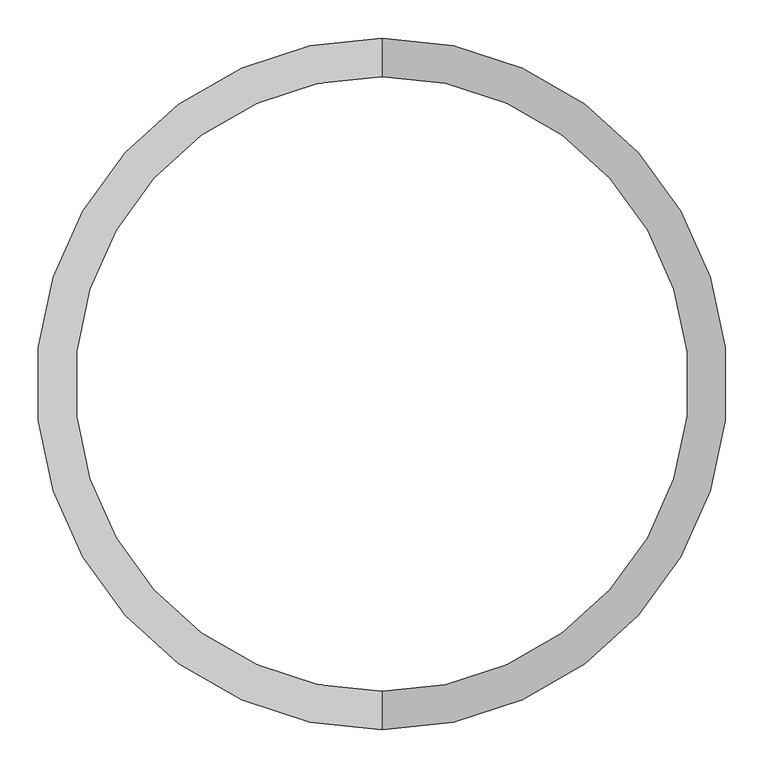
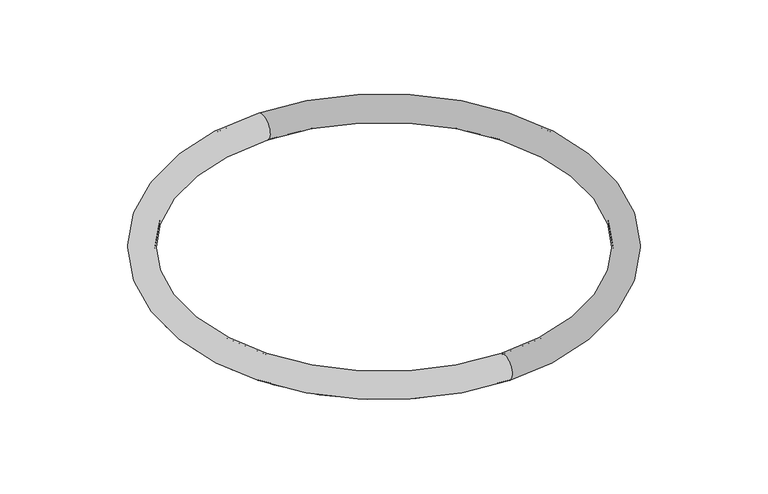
"""IFC4 building model written with IfcOpenShell, lengths in millimetres: light fixture geometry, ARTEMIDE-AoL-StandAlone-Circular_Suspended : StandALone_Suspended_Circular-900mm 6040lm 3000K."""

from ifc_helpers import new_model, si_unit, point, frame, origin, place, context, project, spatial, polyline, circle_curve, ellipse_curve, trimmed, source, transform, mapped, element, save
from ifc_brep_helpers import plane_surface, cylinder_surface, revolved_surface, advanced_brep


def light_fixture_67fe1779(model_context):
    return source(origin(), model_context, "Body", "AdvancedBrep", [
        advanced_brep(
        [(425.3445739, -413.1969999, 502.9151372), (425.3445739, 413.3030001, 502.9151372), (425.3445739, 436.8030001, 502.9151372), (425.3445739, -436.6969999, 502.9151372), (425.3445739, -413.1969999, 507.2410096), (425.3445739, 413.3030001, 507.2410096), (425.3445739, -411.2792459, 505.8106819), (425.3445739, 411.3852461, 505.8106819), (425.3445739, 411.3852461, 507.2410096), (425.3445739, -411.2792459, 507.2410096), (425.3445739, -409.3292459, 507.2258724), (425.3445739, 409.4352461, 507.2258724), (425.3445739, -409.3292459, 509.2258716), (425.3445739, 409.4352461, 509.2258716), (425.3445739, -412.2792459, 510.7258716), (425.3445739, 412.3852461, 510.7258716), (425.3445739, 412.3852461, 509.2258716), (425.3445739, -412.2792459, 509.2258716), (425.3445739, -442.2249794, 510.7258716), (425.3445739, 442.3309795, 510.7258716), (425.3445739, 407.7750206, 510.7258716), (425.3445739, -407.6690205, 510.7258716), (425.3445739, -437.6147539, 509.2258716), (425.3445739, 437.7207541, 509.2258716), (425.3445739, 437.7207541, 510.7258716), (425.3445739, -437.6147539, 510.7258716), (425.3445739, -440.5647539, 507.2258724), (425.3445739, 440.6707541, 507.2258724), (425.3445739, 440.6707541, 509.2258716), (425.3445739, -440.5647539, 509.2258716), (425.3445739, -438.6147539, 505.8106819), (425.3445739, 438.7207541, 505.8106819), (425.3445739, -438.6147539, 507.2410096), (425.3445739, 438.7207541, 507.2410096), (425.3445739, 436.8030001, 507.2410096), (425.3445739, -436.6969999, 507.2410096)],
        [
            (0, 1, circle_curve(frame((425.3445739, 0.0530001, 502.9151372), z_axis=(0.0, 0.0, -1.0), x_axis=(0.0, 1.0, 0.0)), 413.25)),
            (1, 2, circle_curve(frame((425.3445739, 425.0530001, 524.9817976), z_axis=(-1.0, 0.0, 0.0), x_axis=(0.0, -1.0, 0.0)), 25.0)),
            (2, 3, circle_curve(frame((425.3445739, 0.0530001, 502.9151372), z_axis=(0.0, 0.0, 1.0), x_axis=(0.0, 1.0, 0.0)), 436.75)),
            (3, 0, circle_curve(frame((425.3445739, -424.9469999, 524.9817976), z_axis=(-1.0, 0.0, 0.0), x_axis=(0.0, 1.0, 0.0)), 25.0)),
            (4, 5, circle_curve(frame((425.3445739, 0.0530001, 507.2410096), z_axis=(0.0, 0.0, -1.0), x_axis=(0.0, 1.0, 0.0)), 413.25)),
            (5, 1),
            (0, 4),
            (6, 7, circle_curve(frame((425.3445739, 0.0530001, 505.8106819), z_axis=(0.0, 0.0, -1.0), x_axis=(0.0, 1.0, 0.0)), 411.332246)),
            (7, 8),
            (8, 9, circle_curve(frame((425.3445739, 0.0530001, 507.2410096), z_axis=(0.0, 0.0, 1.0), x_axis=(0.0, 1.0, 0.0)), 411.332246)),
            (9, 6),
            (10, 11, circle_curve(frame((425.3445739, 0.0530001, 507.2258724), z_axis=(0.0, 0.0, -1.0), x_axis=(0.0, 1.0, 0.0)), 409.382246)),
            (11, 7),
            (6, 10),
            (12, 13, circle_curve(frame((425.3445739, 0.0530001, 509.2258716), z_axis=(0.0, 0.0, -1.0), x_axis=(0.0, 1.0, 0.0)), 409.382246)),
            (13, 11),
            (10, 12),
            (14, 15, circle_curve(frame((425.3445739, 0.0530001, 510.7258716), z_axis=(0.0, 0.0, -1.0), x_axis=(0.0, 1.0, 0.0)), 412.332246)),
            (15, 16),
            (16, 17, circle_curve(frame((425.3445739, 0.0530001, 509.2258716), z_axis=(0.0, 0.0, 1.0), x_axis=(0.0, 1.0, 0.0)), 412.332246)),
            (17, 14),
            (18, 19, circle_curve(frame((425.3445739, 0.0530001, 510.7258716), z_axis=(0.0, 0.0, -1.0), x_axis=(0.0, 1.0, 0.0)), 442.2779794)),
            (19, 20, circle_curve(frame((425.3445739, 425.0530001, 524.9817976), z_axis=(1.0, 0.0, 0.0), x_axis=(0.0, -1.0, 0.0)), 22.4)),
            (20, 21, circle_curve(frame((425.3445739, 0.0530001, 510.7258716), z_axis=(0.0, 0.0, 1.0), x_axis=(0.0, 1.0, 0.0)), 407.7220206)),
            (21, 18, circle_curve(frame((425.3445739, -424.9469999, 524.9817976), z_axis=(1.0, 0.0, 0.0), x_axis=(0.0, 1.0, 0.0)), 22.4)),
            (22, 23, circle_curve(frame((425.3445739, 0.0530001, 509.2258716), z_axis=(0.0, 0.0, -1.0), x_axis=(0.0, 1.0, 0.0)), 437.667754)),
            (23, 24),
            (24, 25, circle_curve(frame((425.3445739, 0.0530001, 510.7258716), z_axis=(0.0, 0.0, 1.0), x_axis=(0.0, 1.0, 0.0)), 437.667754)),
            (25, 22),
            (26, 27, circle_curve(frame((425.3445739, 0.0530001, 507.2258724), z_axis=(0.0, 0.0, -1.0), x_axis=(0.0, 1.0, 0.0)), 440.617754)),
            (27, 28),
            (28, 29, circle_curve(frame((425.3445739, 0.0530001, 509.2258716), z_axis=(0.0, 0.0, 1.0), x_axis=(0.0, 1.0, 0.0)), 440.617754)),
            (29, 26),
            (30, 31, circle_curve(frame((425.3445739, 0.0530001, 505.8106819), z_axis=(0.0, 0.0, -1.0), x_axis=(0.0, 1.0, 0.0)), 438.667754)),
            (31, 27),
            (26, 30),
            (32, 33, circle_curve(frame((425.3445739, 0.0530001, 507.2410096), z_axis=(0.0, 0.0, -1.0), x_axis=(0.0, 1.0, 0.0)), 438.667754)),
            (33, 31),
            (30, 32),
            (2, 34),
            (34, 35, circle_curve(frame((425.3445739, 0.0530001, 507.2410096), z_axis=(0.0, 0.0, 1.0), x_axis=(0.0, 1.0, 0.0)), 436.75)),
            (35, 3),
            (1, 0, circle_curve(frame((425.3445739, 0.0530001, 502.9151372), z_axis=(0.0, 0.0, -1.0), x_axis=(0.0, -1.0, 0.0)), 413.25)),
            (3, 2, circle_curve(frame((425.3445739, 0.0530001, 502.9151372), z_axis=(0.0, 0.0, 1.0), x_axis=(0.0, -1.0, 0.0)), 436.75)),
            (5, 4, circle_curve(frame((425.3445739, 0.0530001, 507.2410096), z_axis=(0.0, 0.0, -1.0), x_axis=(0.0, -1.0, 0.0)), 413.25)),
            (8, 9, circle_curve(frame((425.3445739, 0.0530001, 507.2410096), z_axis=(0.0, 0.0, -1.0), x_axis=(0.0, -1.0, 0.0)), 411.332246)),
            (7, 6, circle_curve(frame((425.3445739, 0.0530001, 505.8106819), z_axis=(0.0, 0.0, -1.0), x_axis=(0.0, -1.0, 0.0)), 411.332246)),
            (11, 10, circle_curve(frame((425.3445739, 0.0530001, 507.2258724), z_axis=(0.0, 0.0, -1.0), x_axis=(0.0, -1.0, 0.0)), 409.382246)),
            (13, 12, circle_curve(frame((425.3445739, 0.0530001, 509.2258716), z_axis=(0.0, 0.0, -1.0), x_axis=(0.0, -1.0, 0.0)), 409.382246)),
            (16, 17, circle_curve(frame((425.3445739, 0.0530001, 509.2258716), z_axis=(0.0, 0.0, -1.0), x_axis=(0.0, -1.0, 0.0)), 412.332246)),
            (15, 14, circle_curve(frame((425.3445739, 0.0530001, 510.7258716), z_axis=(0.0, 0.0, -1.0), x_axis=(0.0, -1.0, 0.0)), 412.332246)),
            (20, 21, circle_curve(frame((425.3445739, 0.0530001, 510.7258716), z_axis=(0.0, 0.0, -1.0), x_axis=(0.0, -1.0, 0.0)), 407.7220206)),
            (19, 18, circle_curve(frame((425.3445739, 0.0530001, 510.7258716), z_axis=(0.0, 0.0, -1.0), x_axis=(0.0, -1.0, 0.0)), 442.2779794)),
            (24, 25, circle_curve(frame((425.3445739, 0.0530001, 510.7258716), z_axis=(0.0, 0.0, -1.0), x_axis=(0.0, -1.0, 0.0)), 437.667754)),
            (23, 22, circle_curve(frame((425.3445739, 0.0530001, 509.2258716), z_axis=(0.0, 0.0, -1.0), x_axis=(0.0, -1.0, 0.0)), 437.667754)),
            (28, 29, circle_curve(frame((425.3445739, 0.0530001, 509.2258716), z_axis=(0.0, 0.0, -1.0), x_axis=(0.0, -1.0, 0.0)), 440.617754)),
            (27, 26, circle_curve(frame((425.3445739, 0.0530001, 507.2258724), z_axis=(0.0, 0.0, -1.0), x_axis=(0.0, -1.0, 0.0)), 440.617754)),
            (31, 30, circle_curve(frame((425.3445739, 0.0530001, 505.8106819), z_axis=(0.0, 0.0, -1.0), x_axis=(0.0, -1.0, 0.0)), 438.667754)),
            (33, 32, circle_curve(frame((425.3445739, 0.0530001, 507.2410096), z_axis=(0.0, 0.0, -1.0), x_axis=(0.0, -1.0, 0.0)), 438.667754)),
            (34, 35, circle_curve(frame((425.3445739, 0.0530001, 507.2410096), z_axis=(0.0, 0.0, -1.0), x_axis=(0.0, -1.0, 0.0)), 436.75)),
        ],
        [
            revolved_surface(trimmed(ellipse_curve(frame((425.3445739, 425.0530001, 524.9817976), z_axis=(1.0, 0.0, 0.0), x_axis=(0.0, -1.0, 0.0)), 25.0, 25.0), [point((425.3445739, 436.8030001, 502.9151372))], [point((425.3445739, 413.3030001, 502.9151372))], True, "CARTESIAN"), (425.3445739, 0.0530001, 500.0), (0.0, 0.0, 1.0)),
            cylinder_surface(frame((425.3445739, 0.0530001, 500.0), z_axis=(0.0, 0.0, 1.0), x_axis=(0.0, 1.0, 0.0)), 413.25),
            revolved_surface(polyline([(425.3445739, 411.3852461, 507.2410096), (425.3445739, 411.3852461, 505.8106819)]), (425.3445739, 0.0530001, 500.0), (0.0, 0.0, 1.0)),
            revolved_surface(polyline([(425.3445739, 411.3852461, 505.8106819), (425.3445739, 409.4352461, 507.2258724)]), (425.3445739, 0.0530001, 500.0), (0.0, 0.0, 1.0)),
            cylinder_surface(frame((425.3445739, 0.0530001, 500.0), z_axis=(0.0, 0.0, 1.0), x_axis=(0.0, 1.0, 0.0)), 409.382246),
            cylinder_surface(frame((425.3445739, 0.0530001, 500.0), z_axis=(0.0, 0.0, 1.0), x_axis=(0.0, 1.0, 0.0)), 412.332246),
            revolved_surface(trimmed(ellipse_curve(frame((425.3445739, 425.0530001, 524.9817976), z_axis=(-1.0, 0.0, 0.0), x_axis=(0.0, -1.0, 0.0)), 22.4, 22.4), [point((425.3445739, 407.7750206, 510.7258716))], [point((425.3445739, 442.3309795, 510.7258716))], True, "CARTESIAN"), (425.3445739, 0.0530001, 500.0), (0.0, 0.0, 1.0)),
            revolved_surface(polyline([(425.3445739, 437.7207541, 510.7258716), (425.3445739, 437.7207541, 509.2258716)]), (425.3445739, 0.0530001, 500.0), (0.0, 0.0, 1.0)),
            revolved_surface(polyline([(425.3445739, 440.6707541, 509.2258716), (425.3445739, 440.6707541, 507.2258724)]), (425.3445739, 0.0530001, 500.0), (0.0, 0.0, 1.0)),
            revolved_surface(polyline([(425.3445739, 440.6707541, 507.2258724), (425.3445739, 438.7207541, 505.8106819)]), (425.3445739, 0.0530001, 500.0), (0.0, 0.0, 1.0)),
            cylinder_surface(frame((425.3445739, 0.0530001, 500.0), z_axis=(0.0, 0.0, 1.0), x_axis=(0.0, 1.0, 0.0)), 438.667754),
            revolved_surface(polyline([(425.3445739, 436.8030001, 507.2410096), (425.3445739, 436.8030001, 502.9151372)]), (425.3445739, 0.0530001, 500.0), (0.0, 0.0, 1.0)),
            revolved_surface(trimmed(ellipse_curve(frame((425.3445739, -424.9469999, 524.9817976), z_axis=(-1.0, 0.0, 0.0), x_axis=(0.0, 1.0, 0.0)), 25.0, 25.0), [point((425.3445739, -436.6969999, 502.9151372))], [point((425.3445739, -413.1969999, 502.9151372))], True, "CARTESIAN"), (425.3445739, 0.0530001, 500.0), (0.0, 0.0, 1.0)),
            cylinder_surface(frame((425.3445739, 0.0530001, 500.0), z_axis=(0.0, 0.0, 1.0), x_axis=(0.0, -1.0, 0.0)), 413.25),
            plane_surface(frame((425.3445739, 0.0530001, 507.2410096), z_axis=(0.0, 0.0, 1.0), x_axis=(0.0, -1.0, 0.0))),
            revolved_surface(polyline([(425.3445739, -411.2792459, 507.2410096), (425.3445739, -411.2792459, 505.8106819)]), (425.3445739, 0.0530001, 500.0), (0.0, 0.0, 1.0)),
            revolved_surface(polyline([(425.3445739, -411.2792459, 505.8106819), (425.3445739, -409.3292459, 507.2258724)]), (425.3445739, 0.0530001, 500.0), (0.0, 0.0, 1.0)),
            cylinder_surface(frame((425.3445739, 0.0530001, 500.0), z_axis=(0.0, 0.0, 1.0), x_axis=(0.0, -1.0, 0.0)), 409.382246),
            plane_surface(frame((425.3445739, 0.0530001, 509.2258716), z_axis=(0.0, 0.0, -1.0), x_axis=(0.0, -1.0, 0.0))),
            cylinder_surface(frame((425.3445739, 0.0530001, 500.0), z_axis=(0.0, 0.0, 1.0), x_axis=(0.0, -1.0, 0.0)), 412.332246),
            plane_surface(frame((425.3445739, 0.0530001, 510.7258716), z_axis=(0.0, 0.0, 1.0), x_axis=(0.0, -1.0, 0.0))),
            revolved_surface(trimmed(ellipse_curve(frame((425.3445739, -424.9469999, 524.9817976), z_axis=(1.0, 0.0, 0.0), x_axis=(0.0, 1.0, 0.0)), 22.4, 22.4), [point((425.3445739, -407.6690205, 510.7258716))], [point((425.3445739, -442.2249794, 510.7258716))], True, "CARTESIAN"), (425.3445739, 0.0530001, 500.0), (0.0, 0.0, 1.0)),
            revolved_surface(polyline([(425.3445739, -437.6147539, 510.7258716), (425.3445739, -437.6147539, 509.2258716)]), (425.3445739, 0.0530001, 500.0), (0.0, 0.0, 1.0)),
            revolved_surface(polyline([(425.3445739, -440.56475389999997, 509.2258716), (425.3445739, -440.56475389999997, 507.2258724)]), (425.3445739, 0.0530001, 500.0), (0.0, 0.0, 1.0)),
            revolved_surface(polyline([(425.3445739, -440.5647539, 507.2258724), (425.3445739, -438.6147539, 505.8106819)]), (425.3445739, 0.0530001, 500.0), (0.0, 0.0, 1.0)),
            cylinder_surface(frame((425.3445739, 0.0530001, 500.0), z_axis=(0.0, 0.0, 1.0), x_axis=(0.0, -1.0, 0.0)), 438.667754),
            revolved_surface(polyline([(425.3445739, -436.6969999, 507.2410096), (425.3445739, -436.6969999, 502.9151372)]), (425.3445739, 0.0530001, 500.0), (0.0, 0.0, 1.0)),
        ],
        [
            (0, [[1, 2, 3, 4]]),
            (1, [[5, 6, -1, 7]]),
            (2, [[8, 9, 10, 11]]),
            (3, [[12, 13, -8, 14]]),
            (4, [[15, 16, -12, 17]]),
            (5, [[18, 19, 20, 21]]),
            (6, [[22, 23, 24, 25]]),
            (7, [[26, 27, 28, 29]]),
            (8, [[30, 31, 32, 33]]),
            (9, [[34, 35, -30, 36]]),
            (10, [[37, 38, -34, 39]]),
            (11, [[-3, 40, 41, 42]]),
            (12, [[43, -4, 44, -2]]),
            (13, [[45, -7, -43, -6]]),
            (14, [[-45, -5], [46, -10]]),
            (15, [[47, -11, -46, -9]]),
            (16, [[48, -14, -47, -13]]),
            (17, [[49, -17, -48, -16]]),
            (18, [[50, -20], [-49, -15]]),
            (19, [[51, -21, -50, -19]]),
            (20, [[-51, -18], [52, -24]]),
            (21, [[53, -25, -52, -23]]),
            (20, [[-53, -22], [54, -28]]),
            (22, [[55, -29, -54, -27]]),
            (18, [[56, -32], [-55, -26]]),
            (23, [[57, -33, -56, -31]]),
            (24, [[58, -36, -57, -35]]),
            (25, [[59, -39, -58, -38]]),
            (14, [[-59, -37], [60, -41]]),
            (26, [[-44, -42, -60, -40]]),
        ],
    ),
        advanced_brep(
        [(425.3445739, -435.75, 502.9), (425.3445739, 437.75, 502.9), (425.3445739, 414.25, 502.9), (425.3445739, -412.25, 502.9), (425.3445739, -435.75, 507.2258724), (425.3445739, 437.75, 507.2258724), (425.3445739, -439.304087, 508.7526314), (425.3445739, 441.304087, 508.7526314), (425.3445739, 441.304087, 507.2258724), (425.3445739, -439.304087, 507.2258724), (425.3445739, -433.5062575, 514.3940086), (425.3445739, 435.5062575, 514.3940086), (425.3445739, 435.5062575, 508.7526314), (425.3445739, -433.5062575, 508.7526314), (425.3445739, -414.4937425, 508.7526314), (425.3445739, 416.4937425, 508.7526314), (425.3445739, 416.4937425, 514.3940086), (425.3445739, -414.4937425, 514.3940086), (425.3445739, -408.695913, 507.2258724), (425.3445739, 410.695913, 507.2258724), (425.3445739, 410.695913, 508.7526314), (425.3445739, -408.695913, 508.7526314), (425.3445739, 414.25, 507.2258724), (425.3445739, -412.25, 507.2258724)],
        [
            (0, 1, circle_curve(frame((425.3445739, 1.0, 502.9), z_axis=(0.0, 0.0, -1.0), x_axis=(0.0, 1.0, 0.0)), 436.75)),
            (1, 2, circle_curve(frame((425.3445739, 426.0, 524.9666604), z_axis=(-1.0, 0.0, 0.0), x_axis=(0.0, -1.0, 0.0)), 25.0)),
            (2, 3, circle_curve(frame((425.3445739, 1.0, 502.9), z_axis=(0.0, 0.0, 1.0), x_axis=(0.0, 1.0, 0.0)), 413.25)),
            (3, 0, circle_curve(frame((425.3445739, -424.0, 524.9666604), z_axis=(-1.0, 0.0, 0.0), x_axis=(0.0, 1.0, 0.0)), 25.0)),
            (4, 5, circle_curve(frame((425.3445739, 1.0, 507.2258724), z_axis=(0.0, 0.0, -1.0), x_axis=(0.0, 1.0, 0.0)), 436.75)),
            (5, 1),
            (0, 4),
            (6, 7, circle_curve(frame((425.3445739, 1.0, 508.7526314), z_axis=(0.0, 0.0, -1.0), x_axis=(0.0, 1.0, 0.0)), 440.304087)),
            (7, 8),
            (8, 9, circle_curve(frame((425.3445739, 1.0, 507.2258724), z_axis=(0.0, 0.0, 1.0), x_axis=(0.0, 1.0, 0.0)), 440.304087)),
            (9, 6),
            (10, 11, circle_curve(frame((425.3445739, 1.0, 514.3940086), z_axis=(0.0, 0.0, -1.0), x_axis=(0.0, 1.0, 0.0)), 434.5062575)),
            (11, 12),
            (12, 13, circle_curve(frame((425.3445739, 1.0, 508.7526314), z_axis=(0.0, 0.0, 1.0), x_axis=(0.0, 1.0, 0.0)), 434.5062575)),
            (13, 10),
            (14, 15, circle_curve(frame((425.3445739, 1.0, 508.7526314), z_axis=(0.0, 0.0, -1.0), x_axis=(0.0, 1.0, 0.0)), 415.4937425)),
            (15, 16),
            (16, 17, circle_curve(frame((425.3445739, 1.0, 514.3940086), z_axis=(0.0, 0.0, 1.0), x_axis=(0.0, 1.0, 0.0)), 415.4937425)),
            (17, 14),
            (18, 19, circle_curve(frame((425.3445739, 1.0, 507.2258724), z_axis=(0.0, 0.0, -1.0), x_axis=(0.0, 1.0, 0.0)), 409.695913)),
            (19, 20),
            (20, 21, circle_curve(frame((425.3445739, 1.0, 508.7526314), z_axis=(0.0, 0.0, 1.0), x_axis=(0.0, 1.0, 0.0)), 409.695913)),
            (21, 18),
            (2, 22),
            (22, 23, circle_curve(frame((425.3445739, 1.0, 507.2258724), z_axis=(0.0, 0.0, 1.0), x_axis=(0.0, 1.0, 0.0)), 413.25)),
            (23, 3),
            (1, 0, circle_curve(frame((425.3445739, 1.0, 502.9), z_axis=(0.0, 0.0, -1.0), x_axis=(0.0, -1.0, 0.0)), 436.75)),
            (3, 2, circle_curve(frame((425.3445739, 1.0, 502.9), z_axis=(0.0, 0.0, 1.0), x_axis=(0.0, -1.0, 0.0)), 413.25)),
            (5, 4, circle_curve(frame((425.3445739, 1.0, 507.2258724), z_axis=(0.0, 0.0, -1.0), x_axis=(0.0, -1.0, 0.0)), 436.75)),
            (8, 9, circle_curve(frame((425.3445739, 1.0, 507.2258724), z_axis=(0.0, 0.0, -1.0), x_axis=(0.0, -1.0, 0.0)), 440.304087)),
            (7, 6, circle_curve(frame((425.3445739, 1.0, 508.7526314), z_axis=(0.0, 0.0, -1.0), x_axis=(0.0, -1.0, 0.0)), 440.304087)),
            (12, 13, circle_curve(frame((425.3445739, 1.0, 508.7526314), z_axis=(0.0, 0.0, -1.0), x_axis=(0.0, -1.0, 0.0)), 434.5062575)),
            (11, 10, circle_curve(frame((425.3445739, 1.0, 514.3940086), z_axis=(0.0, 0.0, -1.0), x_axis=(0.0, -1.0, 0.0)), 434.5062575)),
            (16, 17, circle_curve(frame((425.3445739, 1.0, 514.3940086), z_axis=(0.0, 0.0, -1.0), x_axis=(0.0, -1.0, 0.0)), 415.4937425)),
            (15, 14, circle_curve(frame((425.3445739, 1.0, 508.7526314), z_axis=(0.0, 0.0, -1.0), x_axis=(0.0, -1.0, 0.0)), 415.4937425)),
            (20, 21, circle_curve(frame((425.3445739, 1.0, 508.7526314), z_axis=(0.0, 0.0, -1.0), x_axis=(0.0, -1.0, 0.0)), 409.695913)),
            (19, 18, circle_curve(frame((425.3445739, 1.0, 507.2258724), z_axis=(0.0, 0.0, -1.0), x_axis=(0.0, -1.0, 0.0)), 409.695913)),
            (22, 23, circle_curve(frame((425.3445739, 1.0, 507.2258724), z_axis=(0.0, 0.0, -1.0), x_axis=(0.0, -1.0, 0.0)), 413.25)),
        ],
        [
            revolved_surface(trimmed(ellipse_curve(frame((425.3445739, 426.0, 524.9666604), z_axis=(1.0, 0.0, 0.0), x_axis=(0.0, -1.0, 0.0)), 25.0, 25.0), [point((425.3445739, 414.25, 502.9))], [point((425.3445739, 437.75, 502.9))], True, "CARTESIAN"), (425.3445739, 1.0, 500.0), (0.0, 0.0, 1.0)),
            cylinder_surface(frame((425.3445739, 1.0, 500.0), z_axis=(0.0, 0.0, 1.0), x_axis=(0.0, 1.0, 0.0)), 436.75),
            cylinder_surface(frame((425.3445739, 1.0, 500.0), z_axis=(0.0, 0.0, 1.0), x_axis=(0.0, 1.0, 0.0)), 440.304087),
            cylinder_surface(frame((425.3445739, 1.0, 500.0), z_axis=(0.0, 0.0, 1.0), x_axis=(0.0, 1.0, 0.0)), 434.5062575),
            revolved_surface(polyline([(425.3445739, 416.4937425, 514.3940086), (425.3445739, 416.4937425, 508.7526314)]), (425.3445739, 1.0, 500.0), (0.0, 0.0, 1.0)),
            revolved_surface(polyline([(425.3445739, 410.695913, 508.7526314), (425.3445739, 410.695913, 507.2258724)]), (425.3445739, 1.0, 500.0), (0.0, 0.0, 1.0)),
            revolved_surface(polyline([(425.3445739, 414.25, 507.2258724), (425.3445739, 414.25, 502.9)]), (425.3445739, 1.0, 500.0), (0.0, 0.0, 1.0)),
            revolved_surface(trimmed(ellipse_curve(frame((425.3445739, -424.0, 524.9666604), z_axis=(-1.0, 0.0, 0.0), x_axis=(0.0, 1.0, 0.0)), 25.0, 25.0), [point((425.3445739, -412.25, 502.9))], [point((425.3445739, -435.75, 502.9))], True, "CARTESIAN"), (425.3445739, 1.0, 500.0), (0.0, 0.0, 1.0)),
            cylinder_surface(frame((425.3445739, 1.0, 500.0), z_axis=(0.0, 0.0, 1.0), x_axis=(0.0, -1.0, 0.0)), 436.75),
            plane_surface(frame((425.3445739, 1.0, 507.2258724), z_axis=(0.0, 0.0, -1.0), x_axis=(0.0, -1.0, 0.0))),
            cylinder_surface(frame((425.3445739, 1.0, 500.0), z_axis=(0.0, 0.0, 1.0), x_axis=(0.0, -1.0, 0.0)), 440.304087),
            plane_surface(frame((425.3445739, 1.0, 508.7526314), z_axis=(0.0, 0.0, 1.0), x_axis=(0.0, -1.0, 0.0))),
            cylinder_surface(frame((425.3445739, 1.0, 500.0), z_axis=(0.0, 0.0, 1.0), x_axis=(0.0, -1.0, 0.0)), 434.5062575),
            plane_surface(frame((425.3445739, 1.0, 514.3940086), z_axis=(0.0, 0.0, 1.0), x_axis=(0.0, -1.0, 0.0))),
            revolved_surface(polyline([(425.3445739, -414.4937425, 514.3940086), (425.3445739, -414.4937425, 508.7526314)]), (425.3445739, 1.0, 500.0), (0.0, 0.0, 1.0)),
            revolved_surface(polyline([(425.3445739, -408.695913, 508.7526314), (425.3445739, -408.695913, 507.2258724)]), (425.3445739, 1.0, 500.0), (0.0, 0.0, 1.0)),
            revolved_surface(polyline([(425.3445739, -412.25, 507.2258724), (425.3445739, -412.25, 502.9)]), (425.3445739, 1.0, 500.0), (0.0, 0.0, 1.0)),
        ],
        [
            (0, [[1, 2, 3, 4]]),
            (1, [[5, 6, -1, 7]]),
            (2, [[8, 9, 10, 11]]),
            (3, [[12, 13, 14, 15]]),
            (4, [[16, 17, 18, 19]]),
            (5, [[20, 21, 22, 23]]),
            (6, [[-3, 24, 25, 26]]),
            (7, [[27, -4, 28, -2]]),
            (8, [[29, -7, -27, -6]]),
            (9, [[30, -10], [-29, -5]]),
            (10, [[31, -11, -30, -9]]),
            (11, [[-31, -8], [32, -14]]),
            (12, [[33, -15, -32, -13]]),
            (13, [[-33, -12], [34, -18]]),
            (14, [[35, -19, -34, -17]]),
            (11, [[-35, -16], [36, -22]]),
            (15, [[37, -23, -36, -21]]),
            (9, [[38, -25], [-37, -20]]),
            (16, [[-28, -26, -38, -24]]),
        ],
    ),
    ])


if __name__ == "__main__":
    model = new_model("IFC4")
    model_context = context("Model", 3, world=origin())
    ifc_project = project(units=[si_unit("LENGTHUNIT", "METRE", prefix="MILLI")], contexts=[model_context])
    site = spatial("IfcSite", under=ifc_project)
    building = spatial("IfcBuilding", under=site)
    placement = place(None, origin())
    light_fixture_shape = light_fixture_67fe1779(model_context)
    element("IfcLightFixture", 1, ObjectType="ARTEMIDE-AoL-StandAlone-Circular_Suspended : StandALone_Suspended_Circular-900mm 6040lm 3000K", at=placement, inside=building, context=model_context, shape_type="MappedRepresentation", body=[
        mapped(light_fixture_shape, transform((0.0, 0.0, 0.0), x_axis=(1.0, 0.0, 0.0), y_axis=(0.0, 1.0, 0.0), z_axis=(0.0, 0.0, 1.0))),
    ])
    save(model, "model.ifc")
